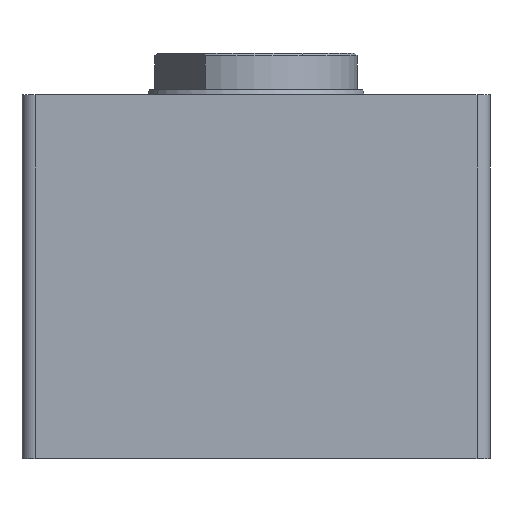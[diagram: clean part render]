
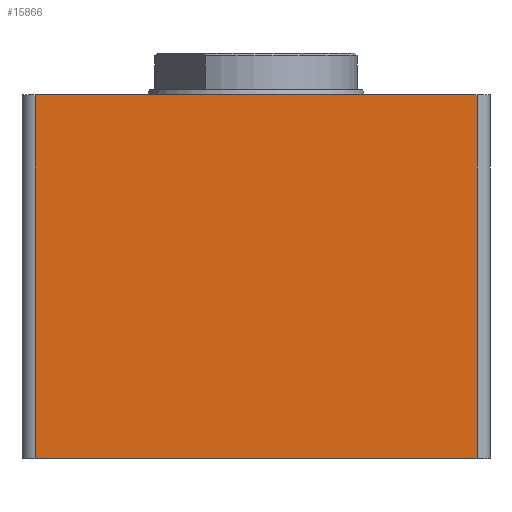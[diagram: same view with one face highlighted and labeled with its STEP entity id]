
A CAD part, left-side view. The second image highlights one B-rep face of the part: STEP entity #15866.
In plain terms, the highlighted planar face has unit normal (-1, 0, 0).
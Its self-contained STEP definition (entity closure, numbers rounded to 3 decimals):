
#422 = LINE ( 'NONE', #13489, #23607 ) ;
#1050 = DIRECTION ( 'NONE',  ( 1., 0., 0. ) ) ;
#1553 = ORIENTED_EDGE ( 'NONE', *, *, #18393, .T. ) ;
#2423 = CARTESIAN_POINT ( 'NONE',  ( 0., 5., 140. ) ) ;
#2718 = EDGE_CURVE ( 'NONE', #20374, #6518, #6670, .T. ) ;
#3148 = VECTOR ( 'NONE', #12640, 1000. ) ;
#3186 = PLANE ( 'NONE',  #20185 ) ;
#3748 = ORIENTED_EDGE ( 'NONE', *, *, #25148, .F. ) ;
#5686 = EDGE_LOOP ( 'NONE', ( #27916, #25906, #3748, #1553 ) ) ;
#6446 = CARTESIAN_POINT ( 'NONE',  ( 0., 5., 140. ) ) ;
#6518 = VERTEX_POINT ( 'NONE', #7661 ) ;
#6670 = LINE ( 'NONE', #15738, #27354 ) ;
#7661 = CARTESIAN_POINT ( 'NONE',  ( 0., 5., 0. ) ) ;
#9811 = DIRECTION ( 'NONE',  ( 0., 0., -1. ) ) ;
#10635 = LINE ( 'NONE', #6446, #3148 ) ;
#12305 = CARTESIAN_POINT ( 'NONE',  ( 0., 175., 140. ) ) ;
#12556 = CARTESIAN_POINT ( 'NONE',  ( 0., 175., 0. ) ) ;
#12640 = DIRECTION ( 'NONE',  ( 0., 0., 1. ) ) ;
#13462 = EDGE_CURVE ( 'NONE', #6518, #25111, #10635, .T. ) ;
#13489 = CARTESIAN_POINT ( 'NONE',  ( 0., 0., 140. ) ) ;
#14134 = FACE_OUTER_BOUND ( 'NONE', #5686, .T. ) ;
#15738 = CARTESIAN_POINT ( 'NONE',  ( 0., 0., 0. ) ) ;
#15866 = ADVANCED_FACE ( 'NONE', ( #14134 ), #3186, .F. ) ;
#18393 = EDGE_CURVE ( 'NONE', #19445, #20374, #21056, .T. ) ;
#19445 = VERTEX_POINT ( 'NONE', #22069 ) ;
#20185 = AXIS2_PLACEMENT_3D ( 'NONE', #20721, #1050, #9811 ) ;
#20374 = VERTEX_POINT ( 'NONE', #12556 ) ;
#20721 = CARTESIAN_POINT ( 'NONE',  ( 0., 0., 140. ) ) ;
#21056 = LINE ( 'NONE', #12305, #25943 ) ;
#22069 = CARTESIAN_POINT ( 'NONE',  ( 0., 175., 140. ) ) ;
#22225 = DIRECTION ( 'NONE',  ( 0., -1., 0. ) ) ;
#22312 = DIRECTION ( 'NONE',  ( 0., -1., 0. ) ) ;
#23346 = DIRECTION ( 'NONE',  ( 0., 0., -1. ) ) ;
#23607 = VECTOR ( 'NONE', #22225, 1000. ) ;
#25111 = VERTEX_POINT ( 'NONE', #2423 ) ;
#25148 = EDGE_CURVE ( 'NONE', #19445, #25111, #422, .T. ) ;
#25906 = ORIENTED_EDGE ( 'NONE', *, *, #13462, .T. ) ;
#25943 = VECTOR ( 'NONE', #23346, 1000. ) ;
#27354 = VECTOR ( 'NONE', #22312, 1000. ) ;
#27916 = ORIENTED_EDGE ( 'NONE', *, *, #2718, .T. ) ;
